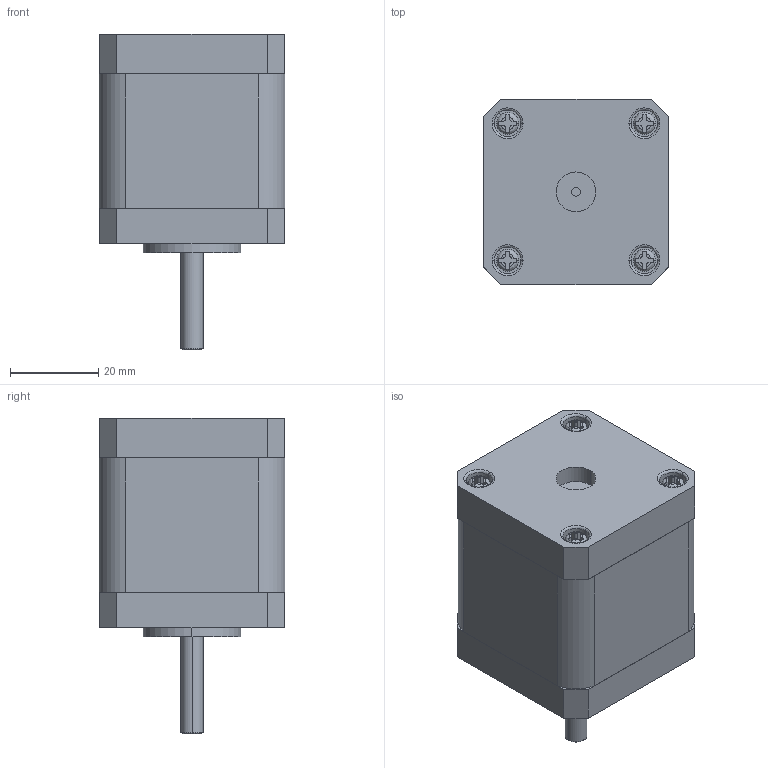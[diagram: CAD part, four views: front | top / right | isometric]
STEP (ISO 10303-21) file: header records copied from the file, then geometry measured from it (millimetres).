
FILE_DESCRIPTION (( 'STEP AP203' ), '1' );
FILE_NAME ('42J1848-425.STEP', '2019-09-03T07:57:35', ( 'USER-' ), ( 'MS' ), 'SwSTEP 2.0', 'SolidWorks 2015', '' );
FILE_SCHEMA (( 'CONFIG_CONTROL_DESIGN' ));
Length unit declared in the file: millimetre
Products named in the file (4): 42奻裔1; 42菁裔1; 42J1848-425; 42儂旯_1
Assembly tree (3 placements, depth 2):
  42J1848-425
    42菁裔1
    42儂旯_1
    42奻裔1
Bounding box: 42 x 42 x 71.5 mm (x, y, z)
Volume: 82190.4 mm3; surface area: 19276.4 mm2
Topology: 3 solids, 3 shells, 193 faces, 478 edges, 310 vertices
Faces by surface type: plane 109, cylinder 56, bspline 16, cone 12
Entity records: 6392 total; most frequent: CARTESIAN_POINT 1507, ORIENTED_EDGE 956, DIRECTION 906, EDGE_CURVE 478, AXIS2_PLACEMENT_3D 325, VERTEX_POINT 310, VECTOR 256, LINE 256
